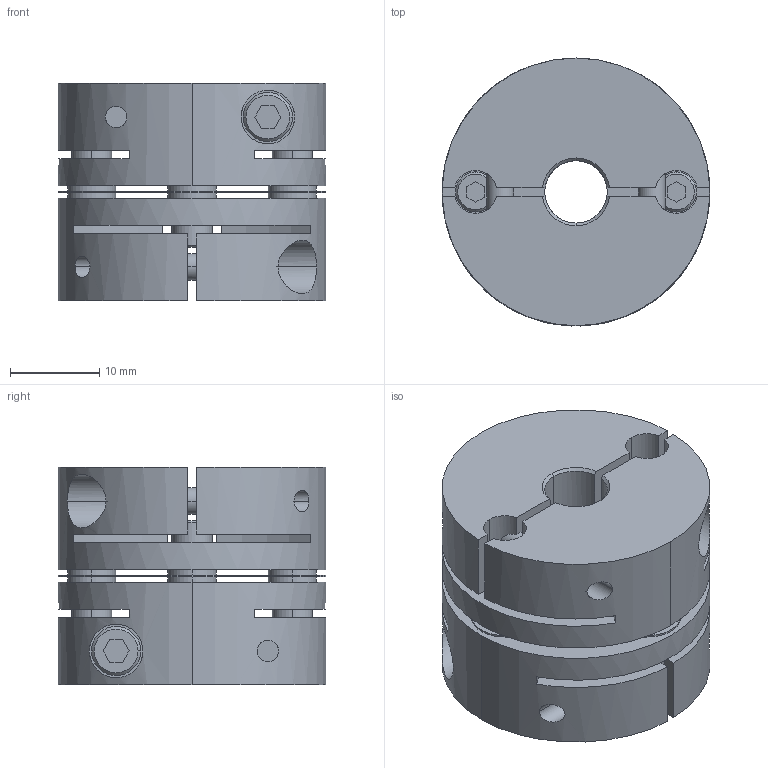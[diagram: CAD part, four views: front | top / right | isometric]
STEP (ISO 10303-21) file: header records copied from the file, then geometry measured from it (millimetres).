
FILE_DESCRIPTION((''),'2;1');
FILE_NAME('LAS-30C-7×8.stp','2011-08-10T13:06:58',(''),(''),'AutoCAD STEP 2000i','AutoCAD 2000i',', , ');
FILE_SCHEMA(('CONFIG_CONTROL_DESIGN'));
Length unit declared in the file: millimetre
Products named in the file (5): LAS-30C-6×6; 忣兜1; LA-3002-D06-1; LA-3002-D06; LAS30-ITA
Assembly tree (4 placements, depth 2):
  LAS-30C-6×6
    忣兜1
    LA-3002-D06-1
    LA-3002-D06
    LAS30-ITA
Bounding box: 30 x 30 x 24.4 mm (x, y, z)
Volume: 13430.4 mm3; surface area: 9218.9 mm2
Topology: 1 solids, 1 shells, 236 faces, 624 edges, 408 vertices
Faces by surface type: plane 112, cylinder 96, cone 28
Entity records: 8139 total; most frequent: CARTESIAN_POINT 1945, DIRECTION 1302, ORIENTED_EDGE 1248, EDGE_CURVE 624, AXIS2_PLACEMENT_3D 477, VERTEX_POINT 408, VECTOR 348, LINE 348
